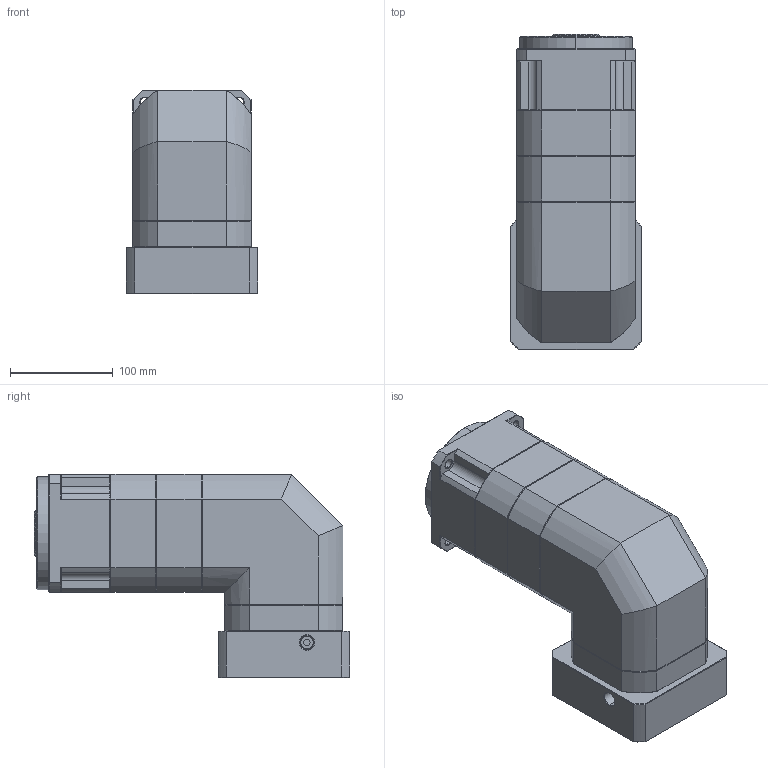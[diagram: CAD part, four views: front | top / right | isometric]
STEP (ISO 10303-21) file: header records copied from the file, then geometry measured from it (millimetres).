
FILE_DESCRIPTION (( 'STEP AP214' ), '1' );
FILE_NAME ('ZPBR115-K32-L3-P1-28-110-145-M8.step', '2024-06-29T08:17:40', ( 'Windows 蚚誧' ), ( 'Organization' ), 'SwSTEP 2.0', 'SolidWorks 2016', '' );
FILE_SCHEMA (( 'AUTOMOTIVE_DESIGN' ));
Length unit declared in the file: millimetre
Products named in the file (1): ZPBR115-K32-L3-P1-28-110-145-M8
Bounding box: 128 x 307 x 198.2 mm (x, y, z)
Surface area: 229644.1 mm2 (no closed solid volume)
Topology: 0 solids, 28 shells, 1845 faces, 4934 edges, 3152 vertices
Faces by surface type: plane 947, bspline 374, cone 288, cylinder 236
Entity records: 88409 total; most frequent: CARTESIAN_POINT 38168, ORIENTED_EDGE 9866, DIRECTION 7609, EDGE_CURVE 4934, LINE 3201, VECTOR 3201, VERTEX_POINT 3152, AXIS2_PLACEMENT_3D 2204
